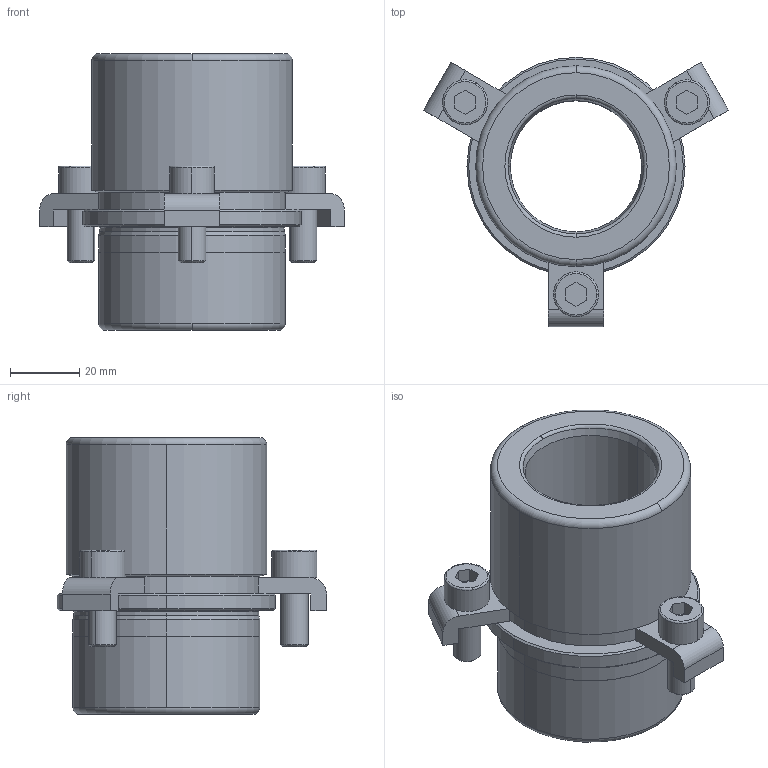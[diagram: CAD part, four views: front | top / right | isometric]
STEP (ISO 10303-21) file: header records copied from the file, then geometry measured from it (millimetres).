
FILE_DESCRIPTION((''),'2;1');
FILE_NAME('B40_030_050.stp','2009-01-05T16:27:13',(''),(''),'Mechanical Desktop 2009','Mechanical Desktop 2009',', , ');
FILE_SCHEMA(('CONFIG_CONTROL_DESIGN'));
Length unit declared in the file: millimetre
Products named in the file (2): Product; blmdl1
Assembly tree (1 placements, depth 2):
  Product
    blmdl1
Bounding box: 88.14 x 77.8 x 80 mm (x, y, z)
Volume: 119814.1 mm3; surface area: 34482.2 mm2
Topology: 7 solids, 7 shells, 147 faces, 362 edges, 238 vertices
Faces by surface type: plane 62, cylinder 41, cone 20, torus 14, bspline 10
Entity records: 4933 total; most frequent: CARTESIAN_POINT 1189, DIRECTION 824, ORIENTED_EDGE 724, EDGE_CURVE 362, AXIS2_PLACEMENT_3D 323, VERTEX_POINT 238, CIRCLE 184, VECTOR 178
